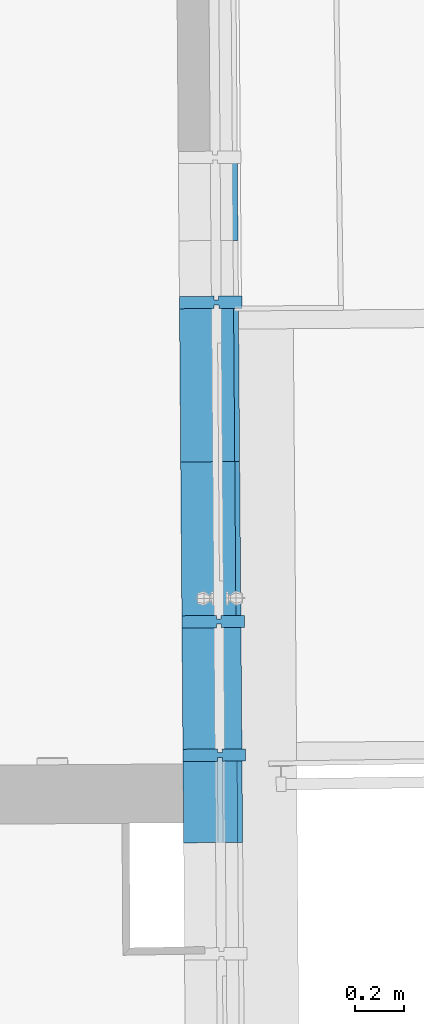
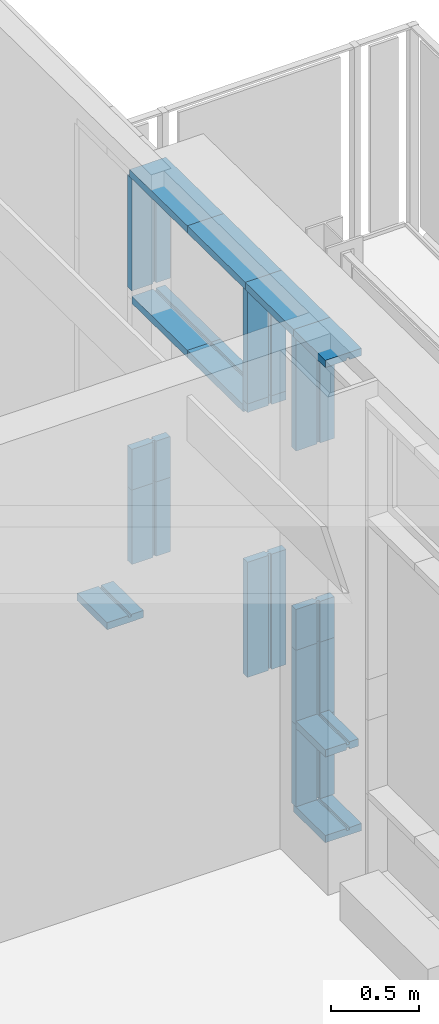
# One storey, part 132 of 158: 19 building element parts, 1 element without a shape of its own.
"""IFC2X3 building model written with IfcOpenShell, lengths in metres."""

from ifc_helpers import new_model, entity, si_unit, converted_unit, derived_unit, money_unit, direction, frame, origin_with_axes, place, context, subcontext, project, spatial, faceted_brep, material, type_object, element, aggregate, save


model = new_model("IFC2X3")

# Units and contexts
model_context = context("Model", 3, precision=1e-05, world=origin_with_axes(), true_north=direction((0.0, 1.0)))
body_context = subcontext(model_context, "Body", "Model", "MODEL_VIEW")
ifc_project = project(units=[si_unit("LENGTHUNIT", "METRE"), si_unit("AREAUNIT", "SQUARE_METRE"), si_unit("VOLUMEUNIT", "CUBIC_METRE"), converted_unit("PLANEANGLEUNIT", "DEGREE", entity("IfcPlaneAngleMeasure", 0.0174532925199), si_unit("PLANEANGLEUNIT", "RADIAN"), dimensions=[0, 0, 0, 0, 0, 0, 0]), money_unit("EUR"), converted_unit("TIMEUNIT", "Year", entity("IfcTimeMeasure", 31556926.0), si_unit("TIMEUNIT", "SECOND"), dimensions=[0, 0, 1, 0, 0, 0, 0]), si_unit("MASSUNIT", "GRAM", prefix="KILO"), si_unit("THERMODYNAMICTEMPERATUREUNIT", "DEGREE_CELSIUS"), si_unit("LUMINOUSINTENSITYUNIT", "LUMEN"), si_unit("ENERGYUNIT", "JOULE", prefix="MEGA"), derived_unit("THERMALCONDUCTANCEUNIT", [(si_unit("POWERUNIT", "WATT"), 1), (si_unit("LENGTHUNIT", "METRE"), -1), (si_unit("THERMODYNAMICTEMPERATUREUNIT", "KELVIN"), -1)]), derived_unit("SPECIFICHEATCAPACITYUNIT", [(si_unit("ENERGYUNIT", "JOULE"), 1), (si_unit("MASSUNIT", "GRAM", prefix="KILO"), -1), (si_unit("THERMODYNAMICTEMPERATUREUNIT", "KELVIN"), -1)]), derived_unit("MASSDENSITYUNIT", [(si_unit("MASSUNIT", "GRAM", prefix="KILO"), 1), (si_unit("VOLUMEUNIT", "CUBIC_METRE"), -1)])], contexts=[model_context])

# Site, building, storey
site_placement = place(None, origin_with_axes())
site = spatial("IfcSite", under=ifc_project, at=site_placement, Name="Gelände", CompositionType="ELEMENT")
building_placement = place(site_placement, origin_with_axes())
building = spatial("IfcBuilding", under=site, at=building_placement, Name="Gebäude", CompositionType="ELEMENT")
storey_placement = place(building_placement, origin_with_axes())
storey = spatial("IfcBuildingStorey", under=building, at=storey_placement, Name="ERDGESCHOSS", CompositionType="ELEMENT", Elevation=0.0)

# Proxy, building element parts
building_element_proxy_type = type_object("IfcBuildingElementProxyType", Name="Fassadentyp", PredefinedType="NOTDEFINED")
proxy_placement = place(storey_placement, frame((-15.5457352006, 40.9565245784, 1.34043905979), z_axis=(0.0, 0.0, 1.0), x_axis=(1.0, 0.0, 0.0)))
proxy = element("IfcBuildingElementProxy", 1, at=proxy_placement, inside=storey, type_object=building_element_proxy_type, Name="Fassade-002")
ifc_material = material(Name="53_Metall, Aluminium")
building_element_part_1_placement = place(proxy_placement, origin_with_axes())
building_element_part_1 = element("IfcBuildingElementPart", 2, at=building_element_part_1_placement, material=ifc_material, Name="53_Metall, Aluminium", context=body_context, shape_type="Brep", body=[
    faceted_brep([(-0.0375319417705, 3.53828694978, 1.41999994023), (-0.0175325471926, 3.53844256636, 1.41999994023), (-0.0174158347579, 3.52344302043, 1.41999994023), (0.0775812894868, 3.52418219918, 1.41999994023), (0.0771922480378, 3.57418068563, 1.41999994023), (-0.0178048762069, 3.57344150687, 1.41999994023), (-0.0176881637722, 3.55844196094, 1.41999994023), (-0.0376875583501, 3.55828634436, 1.41999994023), (-0.0378042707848, 3.57328589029, 1.41999994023), (-0.17780003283, 3.57219657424, 1.41999994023), (-0.177410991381, 3.52219808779, 1.41999994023), (-0.0374152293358, 3.52328740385, 1.41999994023), (-0.0375319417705, 3.53828694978, 1.1368109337), (-0.0175325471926, 3.53844256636, 1.1368109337), (-0.0174158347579, 3.52344302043, 1.1368109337), (0.0775812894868, 3.52418219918, 1.1368109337), (0.0771922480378, 3.57418068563, 1.1368109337), (-0.0178048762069, 3.57344150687, 1.1368109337), (-0.0176881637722, 3.55844196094, 1.1368109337), (-0.0376875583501, 3.55828634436, 1.1368109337), (-0.0378042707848, 3.57328589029, 1.1368109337), (-0.17780003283, 3.57219657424, 1.1368109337), (-0.177410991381, 3.52219808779, 1.1368109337), (-0.0374152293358, 3.52328740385, 1.1368109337)], [[[0, 1, 2, 3, 4, 5, 6, 7, 8, 9, 10, 11]], [[0, 12, 13, 1]], [[1, 13, 14, 2]], [[14, 15, 3, 2]], [[3, 15, 16, 4]], [[17, 5, 4, 16]], [[5, 17, 18, 6]], [[7, 6, 18, 19]], [[8, 7, 19, 20]], [[8, 20, 21, 9]], [[9, 21, 22, 10]], [[11, 10, 22, 23]], [[11, 23, 12, 0]], [[13, 12, 23, 22, 21, 20, 19, 18, 17, 16, 15, 14]]]),
])
building_element_part_2_placement = place(proxy_placement, origin_with_axes())
building_element_part_2 = element("IfcBuildingElementPart", 3, at=building_element_part_2_placement, material=ifc_material, Name="53_Metall, Aluminium", context=body_context, shape_type="Brep", body=[
    faceted_brep([(-0.0375319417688, 3.53828694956, 1.1368109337), (-0.0175325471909, 3.53844256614, 1.1368109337), (-0.0174158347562, 3.52344302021, 1.1368109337), (0.0775812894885, 3.52418219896, 1.1368109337), (0.0771922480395, 3.57418068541, 1.1368109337), (-0.0178048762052, 3.57344150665, 1.1368109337), (-0.0176881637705, 3.55844196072, 1.1368109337), (-0.0376875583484, 3.55828634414, 1.1368109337), (-0.0378042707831, 3.57328589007, 1.1368109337), (-0.177800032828, 3.57219657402, 1.1368109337), (-0.177410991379, 3.52219808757, 1.1368109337), (-0.0374152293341, 3.52328740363, 1.1368109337), (-0.0375319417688, 3.53828694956, 0.619999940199), (-0.0175325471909, 3.53844256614, 0.619999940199), (-0.0174158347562, 3.52344302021, 0.619999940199), (0.0775812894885, 3.52418219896, 0.619999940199), (0.0771922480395, 3.57418068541, 0.619999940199), (-0.0178048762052, 3.57344150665, 0.619999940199), (-0.0176881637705, 3.55844196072, 0.619999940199), (-0.0376875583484, 3.55828634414, 0.619999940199), (-0.0378042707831, 3.57328589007, 0.619999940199), (-0.177800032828, 3.57219657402, 0.619999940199), (-0.177410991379, 3.52219808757, 0.619999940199), (-0.0374152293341, 3.52328740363, 0.619999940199)], [[[0, 1, 2, 3, 4, 5, 6, 7, 8, 9, 10, 11]], [[0, 12, 13, 1]], [[1, 13, 14, 2]], [[14, 15, 3, 2]], [[3, 15, 16, 4]], [[17, 5, 4, 16]], [[5, 17, 18, 6]], [[7, 6, 18, 19]], [[8, 7, 19, 20]], [[8, 20, 21, 9]], [[9, 21, 22, 10]], [[11, 10, 22, 23]], [[11, 23, 12, 0]], [[13, 12, 23, 22, 21, 20, 19, 18, 17, 16, 15, 14]]]),
])
building_element_part_3_placement = place(proxy_placement, origin_with_axes())
building_element_part_3 = element("IfcBuildingElementPart", 4, at=building_element_part_3_placement, material=ifc_material, Name="53_Metall, Aluminium", context=body_context, shape_type="Brep", body=[
    faceted_brep([(-0.0375319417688, 3.53828694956, 3.29999987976), (-0.0175325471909, 3.53844256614, 3.29999987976), (-0.0174158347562, 3.52344302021, 3.29999987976), (0.0775812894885, 3.52418219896, 3.29999987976), (0.0771922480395, 3.57418068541, 3.29999987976), (-0.0178048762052, 3.57344150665, 3.29999987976), (-0.0176881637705, 3.55844196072, 3.29999987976), (-0.0376875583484, 3.55828634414, 3.29999987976), (-0.0378042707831, 3.57328589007, 3.29999987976), (-0.177800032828, 3.57219657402, 3.29999987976), (-0.177410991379, 3.52219808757, 3.29999987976), (-0.0374152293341, 3.52328740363, 3.29999987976), (-0.0375319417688, 3.53828694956, 2.5199999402), (-0.0175325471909, 3.53844256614, 2.5199999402), (-0.0174158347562, 3.52344302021, 2.5199999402), (0.0775812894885, 3.52418219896, 2.5199999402), (0.0771922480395, 3.57418068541, 2.5199999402), (-0.0178048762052, 3.57344150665, 2.5199999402), (-0.0176881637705, 3.55844196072, 2.5199999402), (-0.0376875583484, 3.55828634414, 2.5199999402), (-0.0378042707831, 3.57328589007, 2.5199999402), (-0.177800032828, 3.57219657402, 2.5199999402), (-0.177410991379, 3.52219808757, 2.5199999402), (-0.0374152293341, 3.52328740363, 2.5199999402)], [[[0, 1, 2, 3, 4, 5, 6, 7, 8, 9, 10, 11]], [[0, 12, 13, 1]], [[1, 13, 14, 2]], [[14, 15, 3, 2]], [[3, 15, 16, 4]], [[17, 5, 4, 16]], [[5, 17, 18, 6]], [[7, 6, 18, 19]], [[8, 7, 19, 20]], [[8, 20, 21, 9]], [[9, 21, 22, 10]], [[11, 10, 22, 23]], [[11, 23, 12, 0]], [[13, 12, 23, 22, 21, 20, 19, 18, 17, 16, 15, 14]]]),
])
building_element_part_4_placement = place(proxy_placement, origin_with_axes())
building_element_part_4 = element("IfcBuildingElementPart", 5, at=building_element_part_4_placement, material=ifc_material, Name="53_Metall, Aluminium", context=body_context, shape_type="Brep", body=[
    faceted_brep([(-0.0325641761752, 2.89984402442, 2.44991868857), (-0.0125647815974, 2.899999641, 2.44991868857), (-0.0125647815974, 2.899999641, 2.43491868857), (0.0474334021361, 2.90046649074, 2.43491868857), (0.0474334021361, 2.90046649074, 2.48491868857), (-0.0125647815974, 2.899999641, 2.48491868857), (-0.0125647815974, 2.899999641, 2.46991868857), (-0.0325641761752, 2.89984402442, 2.46991868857), (-0.0325641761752, 2.89984402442, 2.48491868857), (-0.17255993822, 2.89875470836, 2.48491868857), (-0.17255993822, 2.89875470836, 2.43491868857), (-0.0325641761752, 2.89984402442, 2.43491868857), (-0.0374152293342, 3.52328740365, 2.44991868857), (-0.0174158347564, 3.52344302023, 2.44991868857), (-0.0174158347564, 3.52344302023, 2.43491868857), (0.042582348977, 3.52390986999, 2.43491868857), (0.042582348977, 3.52390986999, 2.48491868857), (-0.0174158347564, 3.52344302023, 2.48491868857), (-0.0174158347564, 3.52344302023, 2.46991868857), (-0.0374152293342, 3.52328740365, 2.46991868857), (-0.0374152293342, 3.52328740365, 2.48491868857), (-0.177410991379, 3.52219808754, 2.48491868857), (-0.177410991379, 3.52219808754, 2.43491868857), (-0.0374152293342, 3.52328740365, 2.43491868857)], [[[0, 1, 2, 3, 4, 5, 6, 7, 8, 9, 10, 11]], [[0, 12, 13, 1]], [[1, 13, 14, 2]], [[14, 15, 3, 2]], [[4, 3, 15, 16]], [[17, 5, 4, 16]], [[5, 17, 18, 6]], [[7, 6, 18, 19]], [[8, 7, 19, 20]], [[8, 20, 21, 9]], [[10, 9, 21, 22]], [[11, 10, 22, 23]], [[11, 23, 12, 0]], [[13, 12, 23, 22, 21, 20, 19, 18, 17, 16, 15, 14]]]),
])
building_element_part_5_placement = place(proxy_placement, origin_with_axes())
building_element_part_5 = element("IfcBuildingElementPart", 6, at=building_element_part_5_placement, material=ifc_material, Name="53_Metall, Aluminium", context=body_context, shape_type="Brep", body=[
    faceted_brep([(-0.0395669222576, 3.79981678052, 0.035), (-0.0395669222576, 3.79981678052, 0.05), (-0.179562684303, 3.79872746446, 0.05), (-0.179562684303, 3.79872746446, 0.0), (0.0604300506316, 3.80059486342, 0.0), (0.0604300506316, 3.80059486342, 0.05), (-0.0195675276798, 3.7999723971, 0.05), (-0.0195675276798, 3.7999723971, 0.035), (-0.0422024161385, 4.13852286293, 0.035), (-0.0422024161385, 4.13852286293, 0.05), (-0.182198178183, 4.13743354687, 0.05), (-0.182198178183, 4.13743354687, 0.0), (0.0577945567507, 4.13930094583, 0.0), (0.0577945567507, 4.13930094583, 0.05), (-0.0222030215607, 4.13867847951, 0.05), (-0.0222030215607, 4.13867847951, 0.035)], [[[0, 1, 2, 3, 4, 5, 6, 7]], [[0, 8, 9, 1]], [[9, 10, 2, 1]], [[10, 11, 3, 2]], [[11, 12, 4, 3]], [[12, 13, 5, 4]], [[6, 5, 13, 14]], [[14, 15, 7, 6]], [[7, 15, 8, 0]], [[8, 15, 14, 13, 12, 11, 10, 9]]]),
])
building_element_part_6_placement = place(proxy_placement, origin_with_axes())
building_element_part_6 = element("IfcBuildingElementPart", 7, at=building_element_part_6_placement, material=ifc_material, Name="53_Metall, Aluminium", context=body_context, shape_type="Brep", body=[
    faceted_brep([(-0.0205038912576, 1.34989094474, 0.035), (-0.0205038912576, 1.34989094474, 0.05), (-0.160499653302, 1.34880162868, 0.05), (-0.160499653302, 1.34880162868, 0.0), (0.0794930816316, 1.35066902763, 0.0), (0.0794930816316, 1.35066902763, 0.05), (-0.000504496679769, 1.35004656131, 0.05), (-0.000504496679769, 1.35004656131, 0.035), (-0.0232724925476, 1.70570360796, 0.035), (-0.0232724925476, 1.70570360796, 0.05), (-0.163268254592, 1.70461429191, 0.05), (-0.163268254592, 1.70461429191, 0.0), (0.0767244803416, 1.70648169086, 0.0), (0.0767244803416, 1.70648169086, 0.05), (-0.00327309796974, 1.70585922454, 0.05), (-0.00327309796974, 1.70585922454, 0.035)], [[[0, 1, 2, 3, 4, 5, 6, 7]], [[0, 8, 9, 1]], [[9, 10, 2, 1]], [[10, 11, 3, 2]], [[11, 12, 4, 3]], [[12, 13, 5, 4]], [[6, 5, 13, 14]], [[14, 15, 7, 6]], [[7, 15, 8, 0]], [[8, 15, 14, 13, 12, 11, 10, 9]]]),
])
building_element_part_7_placement = place(proxy_placement, origin_with_axes())
building_element_part_7 = element("IfcBuildingElementPart", 8, at=building_element_part_7_placement, material=ifc_material, Name="53_Metall, Aluminium", context=body_context, shape_type="Brep", body=[
    faceted_brep([(-0.0274220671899, 2.23899498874, 2.51999994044), (-0.00742267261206, 2.23915060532, 2.51999994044), (-0.00730596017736, 2.22415105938, 2.51999994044), (0.0876911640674, 2.22489023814, 2.51999994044), (0.0873021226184, 2.27488872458, 2.51999994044), (-0.00769500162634, 2.27414954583, 2.51999994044), (-0.00757828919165, 2.25914999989, 2.51999994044), (-0.0275776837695, 2.25899438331, 2.51999994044), (-0.0276943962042, 2.27399392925, 2.51999994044), (-0.167690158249, 2.27290461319, 2.51999994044), (-0.1673011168, 2.22290612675, 2.51999994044), (-0.0273053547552, 2.2239954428, 2.51999994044), (-0.0274220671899, 2.23899498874, 2.45991868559), (-0.00742267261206, 2.23915060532, 2.45991868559), (-0.00730596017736, 2.22415105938, 2.45991868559), (0.0876911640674, 2.22489023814, 2.45991868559), (0.0873021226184, 2.27488872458, 2.45991868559), (-0.00769500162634, 2.27414954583, 2.45991868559), (-0.00757828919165, 2.25914999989, 2.45991868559), (-0.0275776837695, 2.25899438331, 2.45991868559), (-0.0276943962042, 2.27399392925, 2.45991868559), (-0.167690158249, 2.27290461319, 2.45991868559), (-0.1673011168, 2.22290612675, 2.45991868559), (-0.0273053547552, 2.2239954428, 2.45991868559)], [[[0, 1, 2, 3, 4, 5, 6, 7, 8, 9, 10, 11]], [[0, 12, 13, 1]], [[1, 13, 14, 2]], [[14, 15, 3, 2]], [[3, 15, 16, 4]], [[17, 5, 4, 16]], [[5, 17, 18, 6]], [[7, 6, 18, 19]], [[8, 7, 19, 20]], [[8, 20, 21, 9]], [[9, 21, 22, 10]], [[11, 10, 22, 23]], [[11, 23, 12, 0]], [[13, 12, 23, 22, 21, 20, 19, 18, 17, 16, 15, 14]]]),
])
building_element_part_8_placement = place(proxy_placement, origin_with_axes())
building_element_part_8 = element("IfcBuildingElementPart", 9, at=building_element_part_8_placement, material=ifc_material, Name="53_Metall, Aluminium", context=body_context, shape_type="Brep", body=[
    faceted_brep([(-0.0276943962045, 2.27399392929, 2.44991868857), (-0.00769500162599, 2.27414954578, 2.44991868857), (-0.00769500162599, 2.27414954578, 2.43491868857), (0.0523031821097, 2.27461639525, 2.43491868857), (0.0523031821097, 2.27461639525, 2.48491868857), (-0.00769500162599, 2.27414954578, 2.48491868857), (-0.00769500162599, 2.27414954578, 2.46991868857), (-0.0276943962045, 2.27399392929, 2.46991868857), (-0.0276943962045, 2.27399392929, 2.48491868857), (-0.167690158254, 2.27290461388, 2.48491868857), (-0.167690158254, 2.27290461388, 2.43491868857), (-0.0276943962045, 2.27399392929, 2.43491868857), (-0.0325641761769, 2.89984402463, 2.44991868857), (-0.012564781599, 2.89999964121, 2.44991868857), (-0.012564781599, 2.89999964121, 2.43491868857), (0.0474334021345, 2.90046649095, 2.43491868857), (0.0474334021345, 2.90046649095, 2.48491868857), (-0.012564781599, 2.89999964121, 2.48491868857), (-0.012564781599, 2.89999964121, 2.46991868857), (-0.0325641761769, 2.89984402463, 2.46991868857), (-0.0325641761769, 2.89984402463, 2.48491868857), (-0.172559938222, 2.89875470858, 2.48491868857), (-0.172559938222, 2.89875470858, 2.43491868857), (-0.0325641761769, 2.89984402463, 2.43491868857)], [[[0, 1, 2, 3, 4, 5, 6, 7, 8, 9, 10, 11]], [[0, 12, 13, 1]], [[1, 13, 14, 2]], [[14, 15, 3, 2]], [[3, 15, 16, 4]], [[17, 5, 4, 16]], [[5, 17, 18, 6]], [[7, 6, 18, 19]], [[8, 7, 19, 20]], [[8, 20, 21, 9]], [[9, 21, 22, 10]], [[11, 10, 22, 23]], [[11, 23, 12, 0]], [[13, 12, 23, 22, 21, 20, 19, 18, 17, 16, 15, 14]]]),
])
building_element_part_9_placement = place(proxy_placement, origin_with_axes())
building_element_part_9 = element("IfcBuildingElementPart", 10, at=building_element_part_9_placement, material=ifc_material, Name="53_Metall, Aluminium", context=body_context, shape_type="Brep", body=[
    faceted_brep([(-0.0205038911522, 1.34989093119, 0.60999994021), (-0.000504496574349, 1.35004654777, 0.60999994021), (-0.000504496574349, 1.35004654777, 0.59499994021), (0.0594936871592, 1.35051339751, 0.59499994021), (0.0594936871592, 1.35051339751, 0.64499994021), (-0.000504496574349, 1.35004654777, 0.64499994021), (-0.000504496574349, 1.35004654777, 0.62999994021), (-0.0205038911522, 1.34989093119, 0.62999994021), (-0.0205038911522, 1.34989093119, 0.64499994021), (-0.160499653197, 1.34880161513, 0.64499994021), (-0.160499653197, 1.34880161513, 0.59499994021), (-0.0205038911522, 1.34989093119, 0.59499994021), (-0.0230779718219, 1.68070436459, 0.60999994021), (-0.0030785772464, 1.68085998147, 0.60999994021), (-0.0030785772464, 1.68085998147, 0.59499994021), (0.0569196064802, 1.68132683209, 0.59499994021), (0.0569196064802, 1.68132683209, 0.64499994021), (-0.0030785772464, 1.68085998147, 0.64499994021), (-0.0030785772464, 1.68085998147, 0.62999994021), (-0.0230779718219, 1.68070436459, 0.62999994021), (-0.0230779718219, 1.68070436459, 0.64499994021), (-0.163073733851, 1.67961504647, 0.64499994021), (-0.163073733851, 1.67961504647, 0.59499994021), (-0.0230779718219, 1.68070436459, 0.59499994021)], [[[0, 1, 2, 3, 4, 5, 6, 7, 8, 9, 10, 11]], [[0, 12, 13, 1]], [[1, 13, 14, 2]], [[14, 15, 3, 2]], [[4, 3, 15, 16]], [[17, 5, 4, 16]], [[5, 17, 18, 6]], [[7, 6, 18, 19]], [[8, 7, 19, 20]], [[8, 20, 21, 9]], [[10, 9, 21, 22]], [[11, 10, 22, 23]], [[11, 23, 12, 0]], [[13, 12, 23, 22, 21, 20, 19, 18, 17, 16, 15, 14]]]),
])
building_element_part_10_placement = place(proxy_placement, origin_with_axes())
building_element_part_10 = element("IfcBuildingElementPart", 11, at=building_element_part_10_placement, material=ifc_material, Name="53_Metall, Aluminium", context=body_context, shape_type="Brep", body=[
    faceted_brep([(-0.0274220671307, 2.23899498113, 1.41999994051), (-0.00742267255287, 2.23915059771, 1.41999994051), (-0.00730596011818, 2.22415105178, 1.41999994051), (0.0876911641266, 2.22489023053, 1.41999994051), (0.0873021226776, 2.27488871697, 1.41999994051), (-0.00769500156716, 2.27414953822, 1.41999994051), (-0.00757828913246, 2.25914999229, 1.41999994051), (-0.0275776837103, 2.25899437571, 1.41999994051), (-0.027694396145, 2.27399392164, 1.41999994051), (-0.16769015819, 2.27290460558, 1.41999994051), (-0.167301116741, 2.22290611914, 1.41999994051), (-0.027305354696, 2.2239954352, 1.41999994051), (-0.0274220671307, 2.23899498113, 0.619999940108), (-0.00742267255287, 2.23915059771, 0.619999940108), (-0.00730596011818, 2.22415105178, 0.619999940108), (0.0876911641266, 2.22489023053, 0.619999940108), (0.0873021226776, 2.27488871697, 0.619999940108), (-0.00769500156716, 2.27414953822, 0.619999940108), (-0.00757828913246, 2.25914999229, 0.619999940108), (-0.0275776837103, 2.25899437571, 0.619999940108), (-0.027694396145, 2.27399392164, 0.619999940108), (-0.16769015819, 2.27290460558, 0.619999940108), (-0.167301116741, 2.22290611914, 0.619999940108), (-0.027305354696, 2.2239954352, 0.619999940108)], [[[0, 1, 2, 3, 4, 5, 6, 7, 8, 9, 10, 11]], [[0, 12, 13, 1]], [[1, 13, 14, 2]], [[14, 15, 3, 2]], [[3, 15, 16, 4]], [[17, 5, 4, 16]], [[5, 17, 18, 6]], [[7, 6, 18, 19]], [[8, 7, 19, 20]], [[8, 20, 21, 9]], [[9, 21, 22, 10]], [[11, 10, 22, 23]], [[11, 23, 12, 0]], [[13, 12, 23, 22, 21, 20, 19, 18, 17, 16, 15, 14]]]),
])
building_element_part_11_placement = place(proxy_placement, origin_with_axes())
building_element_part_11 = element("IfcBuildingElementPart", 12, at=building_element_part_11_placement, material=ifc_material, Name="53_Metall, Aluminium", context=body_context, shape_type="Brep", body=[
    faceted_brep([(-0.0231946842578, 1.69570391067, 1.1368109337), (-0.00319528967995, 1.69585952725, 1.1368109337), (-0.00307857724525, 1.68085998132, 1.1368109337), (0.0919185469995, 1.68159916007, 1.1368109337), (0.0915295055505, 1.73159764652, 1.1368109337), (-0.00346761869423, 1.73085846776, 1.1368109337), (-0.00335090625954, 1.71585892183, 1.1368109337), (-0.0233503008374, 1.71570330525, 1.1368109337), (-0.0234670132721, 1.73070285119, 1.1368109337), (-0.163462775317, 1.72961353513, 1.1368109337), (-0.163073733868, 1.67961504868, 1.1368109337), (-0.0230779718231, 1.68070436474, 1.1368109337), (-0.0231946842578, 1.69570391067, 0.619999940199), (-0.00319528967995, 1.69585952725, 0.619999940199), (-0.00307857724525, 1.68085998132, 0.619999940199), (0.0919185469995, 1.68159916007, 0.619999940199), (0.0915295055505, 1.73159764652, 0.619999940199), (-0.00346761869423, 1.73085846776, 0.619999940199), (-0.00335090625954, 1.71585892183, 0.619999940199), (-0.0233503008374, 1.71570330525, 0.619999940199), (-0.0234670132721, 1.73070285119, 0.619999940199), (-0.163462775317, 1.72961353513, 0.619999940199), (-0.163073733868, 1.67961504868, 0.619999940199), (-0.0230779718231, 1.68070436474, 0.619999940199)], [[[0, 1, 2, 3, 4, 5, 6, 7, 8, 9, 10, 11]], [[0, 12, 13, 1]], [[1, 13, 14, 2]], [[14, 15, 3, 2]], [[3, 15, 16, 4]], [[17, 5, 4, 16]], [[5, 17, 18, 6]], [[7, 6, 18, 19]], [[8, 7, 19, 20]], [[8, 20, 21, 9]], [[9, 21, 22, 10]], [[11, 10, 22, 23]], [[11, 23, 12, 0]], [[13, 12, 23, 22, 21, 20, 19, 18, 17, 16, 15, 14]]]),
])
building_element_part_12_placement = place(proxy_placement, origin_with_axes())
building_element_part_12 = element("IfcBuildingElementPart", 13, at=building_element_part_12_placement, material=ifc_material, Name="53_Metall, Aluminium", context=body_context, shape_type="Brep", body=[
    faceted_brep([(-0.0231946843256, 1.69570391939, 1.41999994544), (-0.00319528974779, 1.69585953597, 1.41999994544), (-0.00307857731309, 1.68085999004, 1.41999994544), (0.0919185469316, 1.68159916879, 1.41999994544), (0.0915295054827, 1.73159765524, 1.41999994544), (-0.00346761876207, 1.73085847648, 1.41999994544), (-0.00335090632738, 1.71585893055, 1.41999994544), (-0.0233503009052, 1.71570331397, 1.41999994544), (-0.0234670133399, 1.7307028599, 1.41999994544), (-0.163462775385, 1.72961354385, 1.41999994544), (-0.163073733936, 1.6796150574, 1.41999994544), (-0.0230779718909, 1.68070437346, 1.41999994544), (-0.0231946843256, 1.69570391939, 1.13681093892), (-0.00319528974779, 1.69585953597, 1.13681093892), (-0.00307857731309, 1.68085999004, 1.13681093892), (0.0919185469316, 1.68159916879, 1.13681093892), (0.0915295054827, 1.73159765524, 1.13681093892), (-0.00346761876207, 1.73085847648, 1.13681093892), (-0.00335090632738, 1.71585893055, 1.13681093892), (-0.0233503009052, 1.71570331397, 1.13681093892), (-0.0234670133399, 1.7307028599, 1.13681093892), (-0.163462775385, 1.72961354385, 1.13681093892), (-0.163073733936, 1.6796150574, 1.13681093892), (-0.0230779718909, 1.68070437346, 1.13681093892)], [[[0, 1, 2, 3, 4, 5, 6, 7, 8, 9, 10, 11]], [[0, 12, 13, 1]], [[1, 13, 14, 2]], [[14, 15, 3, 2]], [[3, 15, 16, 4]], [[17, 5, 4, 16]], [[5, 17, 18, 6]], [[7, 6, 18, 19]], [[8, 7, 19, 20]], [[8, 20, 21, 9]], [[9, 21, 22, 10]], [[11, 10, 22, 23]], [[11, 23, 12, 0]], [[13, 12, 23, 22, 21, 20, 19, 18, 17, 16, 15, 14]]]),
])
building_element_part_13_placement = place(proxy_placement, origin_with_axes())
building_element_part_13 = element("IfcBuildingElementPart", 14, at=building_element_part_13_placement, material=ifc_material, Name="53_Metall, Aluminium", context=body_context, shape_type="Brep", body=[
    faceted_brep([(-0.0231946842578, 1.69570391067, 0.619999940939), (-0.00319528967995, 1.69585952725, 0.619999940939), (-0.00307857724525, 1.68085998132, 0.619999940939), (0.0919185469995, 1.68159916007, 0.619999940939), (0.0915295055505, 1.73159764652, 0.619999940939), (-0.00346761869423, 1.73085846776, 0.619999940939), (-0.00335090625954, 1.71585892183, 0.619999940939), (-0.0233503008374, 1.71570330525, 0.619999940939), (-0.0234670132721, 1.73070285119, 0.619999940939), (-0.163462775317, 1.72961353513, 0.619999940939), (-0.163073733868, 1.67961504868, 0.619999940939), (-0.0230779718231, 1.68070436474, 0.619999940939), (-0.0231946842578, 1.69570391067, 0.0500000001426), (-0.00319528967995, 1.69585952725, 0.0499999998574), (-0.00307857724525, 1.68085998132, 0.0499999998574), (0.0919185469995, 1.68159916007, 0.0499999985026), (0.0915295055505, 1.73159764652, 0.0499999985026), (-0.00346761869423, 1.73085846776, 0.0499999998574), (-0.00335090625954, 1.71585892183, 0.0499999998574), (-0.0233503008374, 1.71570330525, 0.0500000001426), (-0.0234670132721, 1.73070285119, 0.0500000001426), (-0.163462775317, 1.72961353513, 0.0500000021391), (-0.163073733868, 1.67961504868, 0.0500000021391), (-0.0230779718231, 1.68070436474, 0.0500000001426)], [[[0, 1, 2, 3, 4, 5, 6, 7, 8, 9, 10, 11]], [[0, 12, 13, 1]], [[1, 13, 14, 2]], [[14, 15, 3, 2]], [[4, 3, 15, 16]], [[17, 5, 4, 16]], [[5, 17, 18, 6]], [[7, 6, 18, 19]], [[8, 7, 19, 20]], [[8, 20, 21, 9]], [[10, 9, 21, 22]], [[11, 10, 22, 23]], [[11, 23, 12, 0]], [[13, 12, 23, 22, 21, 20, 19, 18, 17, 16, 15, 14]]]),
])
building_element_part_14_placement = place(proxy_placement, origin_with_axes())
building_element_part_14 = element("IfcBuildingElementPart", 15, at=building_element_part_14_placement, material=ifc_material, Name="53_Metall, Aluminium", context=body_context, shape_type="Brep", body=[
    faceted_brep([(-0.0274998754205, 2.24899467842, 3.31499987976), (-0.00750048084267, 2.249150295, 3.31499987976), (-0.00750048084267, 2.249150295, 3.29999987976), (0.0724970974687, 2.24977276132, 3.29999987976), (0.0724970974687, 2.24977276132, 3.34999987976), (-0.167495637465, 2.24790536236, 3.34999987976), (-0.167495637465, 2.24790536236, 3.29999987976), (-0.0274998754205, 2.24899467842, 3.29999987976), (-0.032564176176, 2.89984402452, 3.31499987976), (-0.0125647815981, 2.8999996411, 3.31499987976), (-0.0125647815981, 2.8999996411, 3.29999987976), (0.0674327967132, 2.90062210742, 3.29999987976), (0.0674327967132, 2.90062210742, 3.34999987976), (-0.172559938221, 2.89875470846, 3.34999987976), (-0.172559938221, 2.89875470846, 3.29999987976), (-0.032564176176, 2.89984402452, 3.29999987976)], [[[0, 1, 2, 3, 4, 5, 6, 7]], [[1, 0, 8, 9]], [[10, 2, 1, 9]], [[2, 10, 11, 3]], [[12, 4, 3, 11]], [[13, 5, 4, 12]], [[14, 6, 5, 13]], [[15, 7, 6, 14]], [[0, 7, 15, 8]], [[8, 15, 14, 13, 12, 11, 10, 9]]]),
])
building_element_part_15_placement = place(proxy_placement, origin_with_axes())
building_element_part_15 = element("IfcBuildingElementPart", 16, at=building_element_part_15_placement, material=ifc_material, Name="53_Metall, Aluminium", context=body_context, shape_type="Brep", body=[
    faceted_brep([(-0.0231946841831, 1.69570390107, 3.29999987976), (-0.00319528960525, 1.69585951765, 3.29999987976), (-0.00307857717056, 1.68085997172, 3.29999987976), (0.0919185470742, 1.68159915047, 3.29999987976), (0.0915295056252, 1.73159763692, 3.29999987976), (-0.00346761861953, 1.73085845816, 3.29999987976), (-0.00335090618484, 1.71585891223, 3.29999987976), (-0.0233503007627, 1.71570329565, 3.29999987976), (-0.0234670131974, 1.73070284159, 3.29999987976), (-0.163462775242, 1.72961352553, 3.29999987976), (-0.163073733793, 1.67961503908, 3.29999987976), (-0.0230779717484, 1.68070435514, 3.29999987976), (-0.0231946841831, 1.69570390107, 2.5199999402), (-0.00319528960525, 1.69585951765, 2.5199999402), (-0.00307857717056, 1.68085997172, 2.5199999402), (0.0919185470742, 1.68159915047, 2.5199999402), (0.0915295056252, 1.73159763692, 2.5199999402), (-0.00346761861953, 1.73085845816, 2.5199999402), (-0.00335090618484, 1.71585891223, 2.5199999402), (-0.0233503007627, 1.71570329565, 2.5199999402), (-0.0234670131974, 1.73070284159, 2.5199999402), (-0.163462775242, 1.72961352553, 2.5199999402), (-0.163073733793, 1.67961503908, 2.5199999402), (-0.0230779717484, 1.68070435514, 2.5199999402)], [[[0, 1, 2, 3, 4, 5, 6, 7, 8, 9, 10, 11]], [[0, 12, 13, 1]], [[1, 13, 14, 2]], [[14, 15, 3, 2]], [[3, 15, 16, 4]], [[17, 5, 4, 16]], [[5, 17, 18, 6]], [[7, 6, 18, 19]], [[8, 7, 19, 20]], [[8, 20, 21, 9]], [[9, 21, 22, 10]], [[11, 10, 22, 23]], [[11, 23, 12, 0]], [[13, 12, 23, 22, 21, 20, 19, 18, 17, 16, 15, 14]]]),
])
building_element_part_16_placement = place(proxy_placement, origin_with_axes())
building_element_part_16 = element("IfcBuildingElementPart", 17, at=building_element_part_16_placement, material=ifc_material, Name="53_Metall, Aluminium", context=body_context, shape_type="Brep", body=[
    faceted_brep([(-0.0274220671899, 2.23899498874, 3.29999987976), (-0.00742267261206, 2.23915060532, 3.29999987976), (-0.00730596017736, 2.22415105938, 3.29999987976), (0.0876911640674, 2.22489023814, 3.29999987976), (0.0873021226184, 2.27488872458, 3.29999987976), (-0.00769500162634, 2.27414954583, 3.29999987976), (-0.00757828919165, 2.25914999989, 3.29999987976), (-0.0275776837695, 2.25899438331, 3.29999987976), (-0.0276943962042, 2.27399392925, 3.29999987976), (-0.167690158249, 2.27290461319, 3.29999987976), (-0.1673011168, 2.22290612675, 3.29999987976), (-0.0273053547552, 2.2239954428, 3.29999987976), (-0.0274220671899, 2.23899498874, 2.5199999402), (-0.00742267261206, 2.23915060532, 2.5199999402), (-0.00730596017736, 2.22415105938, 2.5199999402), (0.0876911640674, 2.22489023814, 2.5199999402), (0.0873021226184, 2.27488872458, 2.5199999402), (-0.00769500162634, 2.27414954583, 2.5199999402), (-0.00757828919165, 2.25914999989, 2.5199999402), (-0.0275776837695, 2.25899438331, 2.5199999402), (-0.0276943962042, 2.27399392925, 2.5199999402), (-0.167690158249, 2.27290461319, 2.5199999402), (-0.1673011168, 2.22290612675, 2.5199999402), (-0.0273053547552, 2.2239954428, 2.5199999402)], [[[0, 1, 2, 3, 4, 5, 6, 7, 8, 9, 10, 11]], [[0, 12, 13, 1]], [[1, 13, 14, 2]], [[14, 15, 3, 2]], [[3, 15, 16, 4]], [[17, 5, 4, 16]], [[5, 17, 18, 6]], [[7, 6, 18, 19]], [[8, 7, 19, 20]], [[8, 20, 21, 9]], [[9, 21, 22, 10]], [[11, 10, 22, 23]], [[11, 23, 12, 0]], [[13, 12, 23, 22, 21, 20, 19, 18, 17, 16, 15, 14]]]),
])
building_element_part_17_placement = place(proxy_placement, origin_with_axes())
building_element_part_17 = element("IfcBuildingElementPart", 18, at=building_element_part_17_placement, material=ifc_material, Name="53_Metall, Aluminium", context=body_context, shape_type="Brep", body=[
    faceted_brep([(-0.032564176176, 2.89984402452, 3.31499987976), (-0.0125647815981, 2.8999996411, 3.31499987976), (-0.0125647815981, 2.8999996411, 3.29999987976), (0.0674327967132, 2.90062210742, 3.29999987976), (0.0674327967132, 2.90062210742, 3.34999987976), (-0.172559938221, 2.89875470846, 3.34999987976), (-0.172559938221, 2.89875470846, 3.29999987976), (-0.032564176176, 2.89984402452, 3.29999987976), (-0.0376097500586, 3.54828664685, 3.31499987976), (-0.0176103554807, 3.54844226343, 3.31499987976), (-0.0176103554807, 3.54844226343, 3.29999987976), (0.0623872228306, 3.54906472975, 3.29999987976), (0.0623872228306, 3.54906472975, 3.34999987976), (-0.177605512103, 3.54719733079, 3.34999987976), (-0.177605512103, 3.54719733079, 3.29999987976), (-0.0376097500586, 3.54828664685, 3.29999987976)], [[[0, 1, 2, 3, 4, 5, 6, 7]], [[1, 0, 8, 9]], [[10, 2, 1, 9]], [[2, 10, 11, 3]], [[12, 4, 3, 11]], [[13, 5, 4, 12]], [[14, 6, 5, 13]], [[15, 7, 6, 14]], [[0, 7, 15, 8]], [[8, 15, 14, 13, 12, 11, 10, 9]]]),
])
building_element_part_18_placement = place(proxy_placement, origin_with_axes())
building_element_part_18 = element("IfcBuildingElementPart", 19, at=building_element_part_18_placement, material=ifc_material, Name="53_Metall, Aluminium", context=body_context, shape_type="Brep", body=[
    faceted_brep([(-0.0205038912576, 1.34989094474, 3.31499987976), (-0.000504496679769, 1.35004656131, 3.31499987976), (-0.000504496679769, 1.35004656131, 3.29999987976), (0.0794930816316, 1.35066902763, 3.29999987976), (0.0794930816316, 1.35066902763, 3.34999987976), (-0.160499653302, 1.34880162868, 3.34999987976), (-0.160499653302, 1.34880162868, 3.29999987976), (-0.0205038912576, 1.34989094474, 3.29999987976), (-0.0232724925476, 1.70570360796, 3.31499987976), (-0.00327309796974, 1.70585922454, 3.31499987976), (-0.00327309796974, 1.70585922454, 3.29999987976), (0.0767244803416, 1.70648169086, 3.29999987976), (0.0767244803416, 1.70648169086, 3.34999987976), (-0.163268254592, 1.70461429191, 3.34999987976), (-0.163268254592, 1.70461429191, 3.29999987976), (-0.0232724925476, 1.70570360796, 3.29999987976)], [[[0, 1, 2, 3, 4, 5, 6, 7]], [[1, 0, 8, 9]], [[10, 2, 1, 9]], [[2, 10, 11, 3]], [[12, 4, 3, 11]], [[13, 5, 4, 12]], [[14, 6, 5, 13]], [[15, 7, 6, 14]], [[0, 7, 15, 8]], [[8, 15, 14, 13, 12, 11, 10, 9]]]),
])
building_element_part_19_placement = place(proxy_placement, origin_with_axes())
building_element_part_19 = element("IfcBuildingElementPart", 20, at=building_element_part_19_placement, material=ifc_material, Name="53_Metall, Aluminium", context=body_context, shape_type="Brep", body=[
    faceted_brep([(-0.0232724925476, 1.70570360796, 3.31499987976), (-0.00327309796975, 1.70585922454, 3.31499987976), (-0.00327309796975, 1.70585922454, 3.29999987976), (0.0767244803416, 1.70648169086, 3.29999987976), (0.0767244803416, 1.70648169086, 3.34999987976), (-0.163268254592, 1.70461429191, 3.34999987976), (-0.163268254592, 1.70461429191, 3.29999987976), (-0.0232724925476, 1.70570360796, 3.29999987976), (-0.0274998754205, 2.24899467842, 3.31499987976), (-0.00750048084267, 2.249150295, 3.31499987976), (-0.00750048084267, 2.249150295, 3.29999987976), (0.0724970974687, 2.24977276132, 3.29999987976), (0.0724970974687, 2.24977276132, 3.34999987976), (-0.167495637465, 2.24790536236, 3.34999987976), (-0.167495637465, 2.24790536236, 3.29999987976), (-0.0274998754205, 2.24899467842, 3.29999987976)], [[[0, 1, 2, 3, 4, 5, 6, 7]], [[1, 0, 8, 9]], [[10, 2, 1, 9]], [[2, 10, 11, 3]], [[12, 4, 3, 11]], [[13, 5, 4, 12]], [[14, 6, 5, 13]], [[15, 7, 6, 14]], [[0, 7, 15, 8]], [[8, 15, 14, 13, 12, 11, 10, 9]]]),
])
aggregate(proxy, [building_element_part_1, building_element_part_2, building_element_part_3, building_element_part_4, building_element_part_5, building_element_part_6, building_element_part_7, building_element_part_8, building_element_part_9, building_element_part_10, building_element_part_11, building_element_part_12, building_element_part_13, building_element_part_14, building_element_part_15, building_element_part_16, building_element_part_17, building_element_part_18, building_element_part_19])

save(model, "model.ifc")
